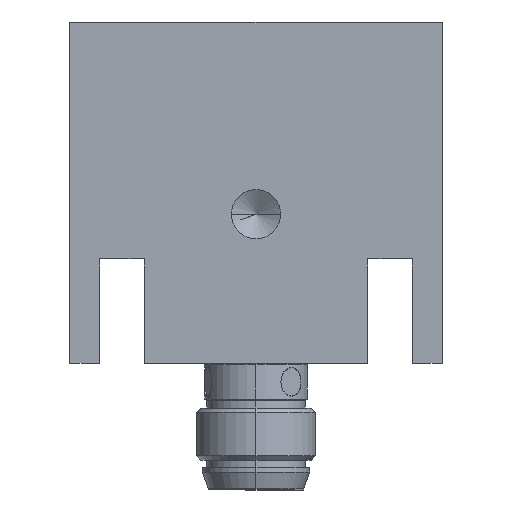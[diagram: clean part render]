
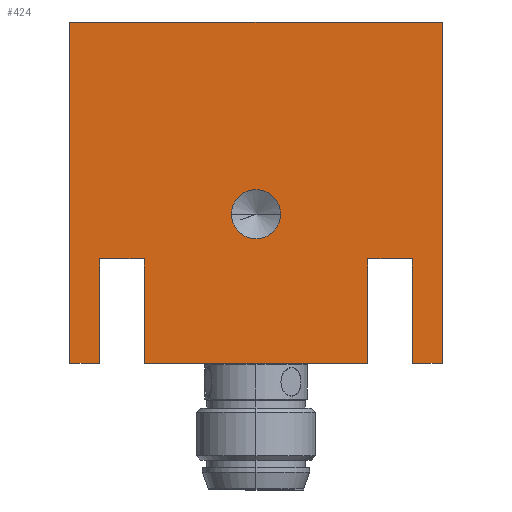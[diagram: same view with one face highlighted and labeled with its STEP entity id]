
A CAD part, left-side view. The second image highlights one B-rep face of the part: STEP entity #424.
In plain terms, the highlighted planar face has unit normal (-1, 0, 0) as drawn and (0, 0, 1) by its records, which use the part's own axes.
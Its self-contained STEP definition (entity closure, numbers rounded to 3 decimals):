
#424=ADVANCED_FACE('2:93',(#1019,#1020),#1021,.T.);
#1019=FACE_BOUND('',#1823,.T.);
#1020=FACE_OUTER_BOUND('',#1824,.T.);
#1021=PLANE('',#1825);
#1823=EDGE_LOOP('',(#2999,#3000));
#1824=EDGE_LOOP('',(#3001,#3002,#3003,#3004,#3005,#3006,#3007,#3008,#3009,#3010,#3011,#3012));
#1825=AXIS2_PLACEMENT_3D('',#3013,#3014,#3015);
#2999=ORIENTED_EDGE('',*,*,#4702,.T.);
#3000=ORIENTED_EDGE('',*,*,#4835,.T.);
#3001=ORIENTED_EDGE('',*,*,#4524,.T.);
#3002=ORIENTED_EDGE('',*,*,#4836,.F.);
#3003=ORIENTED_EDGE('',*,*,#4632,.F.);
#3004=ORIENTED_EDGE('',*,*,#4837,.F.);
#3005=ORIENTED_EDGE('',*,*,#4838,.F.);
#3006=ORIENTED_EDGE('',*,*,#4839,.F.);
#3007=ORIENTED_EDGE('',*,*,#4840,.F.);
#3008=ORIENTED_EDGE('',*,*,#4841,.F.);
#3009=ORIENTED_EDGE('',*,*,#4842,.F.);
#3010=ORIENTED_EDGE('',*,*,#4843,.F.);
#3011=ORIENTED_EDGE('',*,*,#4830,.F.);
#3012=ORIENTED_EDGE('',*,*,#4844,.T.);
#3013=CARTESIAN_POINT('',(0.,19.9,12.011));
#3014=DIRECTION('',(0.,0.,1.0));
#3015=DIRECTION('',(1.0,0.,0.));
#4524=EDGE_CURVE('2:729',#5324,#5328,#5330,.T.);
#4632=EDGE_CURVE('2:660',#5519,#5521,#5522,.F.);
#4702=EDGE_CURVE('2:666',#5633,#5637,#5639,.T.);
#4830=EDGE_CURVE('2:639',#5850,#5851,#5852,.F.);
#4835=EDGE_CURVE('',#5637,#5633,#5859,.T.);
#4836=EDGE_CURVE('2:726',#5521,#5328,#5860,.T.);
#4837=EDGE_CURVE('2:711',#5861,#5519,#5862,.T.);
#4838=EDGE_CURVE('2:648',#5863,#5861,#5864,.T.);
#4839=EDGE_CURVE('2:714',#5865,#5863,#5866,.T.);
#4840=EDGE_CURVE('2:543',#5867,#5865,#5868,.F.);
#4841=EDGE_CURVE('2:720',#5869,#5867,#5870,.T.);
#4842=EDGE_CURVE('2:576',#5871,#5869,#5872,.T.);
#4843=EDGE_CURVE('2:717',#5851,#5871,#5873,.T.);
#4844=EDGE_CURVE('2:708',#5850,#5324,#5874,.F.);
#5324=VERTEX_POINT('',#6491);
#5328=VERTEX_POINT('',#6497);
#5330=LINE('',#6500,#6501);
#5519=VERTEX_POINT('',#6879);
#5521=VERTEX_POINT('',#6882);
#5522=LINE('',#6883,#6884);
#5633=VERTEX_POINT('',#7067);
#5637=VERTEX_POINT('',#7072);
#5639=CIRCLE('',#7075,1.65);
#5850=VERTEX_POINT('',#7621);
#5851=VERTEX_POINT('',#7622);
#5852=LINE('',#7623,#7624);
#5859=CIRCLE('',#7634,1.65);
#5860=LINE('',#7635,#7636);
#5861=VERTEX_POINT('',#7637);
#5862=LINE('',#7638,#7639);
#5863=VERTEX_POINT('',#7640);
#5864=LINE('',#7641,#7642);
#5865=VERTEX_POINT('',#7643);
#5866=LINE('',#7644,#7645);
#5867=VERTEX_POINT('',#7646);
#5868=LINE('',#7647,#7648);
#5869=VERTEX_POINT('',#7649);
#5870=LINE('',#7650,#7651);
#5871=VERTEX_POINT('',#7652);
#5872=LINE('',#7653,#7654);
#5873=LINE('',#7655,#7656);
#5874=LINE('',#7657,#7658);
#6491=CARTESIAN_POINT('',(12.5,22.9,12.011));
#6497=CARTESIAN_POINT('',(-12.5,22.9,12.011));
#6500=CARTESIAN_POINT('',(12.5,22.9,12.011));
#6501=VECTOR('',#8910,1.0);
#6879=CARTESIAN_POINT('',(-10.5,0.,12.011));
#6882=CARTESIAN_POINT('',(-12.5,0.,12.011));
#6883=CARTESIAN_POINT('',(-6.,0.,12.011));
#6884=VECTOR('',#9059,1.0);
#7067=CARTESIAN_POINT('',(-1.65,10.,12.011));
#7072=CARTESIAN_POINT('',(1.65,10.,12.011));
#7075=AXIS2_PLACEMENT_3D('',#9162,#9163,#9164);
#7621=CARTESIAN_POINT('',(12.5,0.,12.011));
#7622=CARTESIAN_POINT('',(10.5,0.,12.011));
#7623=CARTESIAN_POINT('',(-6.,0.,12.011));
#7624=VECTOR('',#9346,1.0);
#7634=AXIS2_PLACEMENT_3D('',#9350,#9351,#9352);
#7635=CARTESIAN_POINT('',(-12.5,19.9,12.011));
#7636=VECTOR('',#9353,1.0);
#7637=CARTESIAN_POINT('',(-10.5,7.,12.011));
#7638=CARTESIAN_POINT('',(-10.5,6.4,12.011));
#7639=VECTOR('',#9354,1.0);
#7640=CARTESIAN_POINT('',(-7.498,7.,12.011));
#7641=CARTESIAN_POINT('',(-6.,7.,12.011));
#7642=VECTOR('',#9355,1.0);
#7643=CARTESIAN_POINT('',(-7.498,0.,12.011));
#7644=CARTESIAN_POINT('',(-7.498,6.4,12.011));
#7645=VECTOR('',#9356,1.0);
#7646=CARTESIAN_POINT('',(7.502,0.,12.011));
#7647=CARTESIAN_POINT('',(-6.,0.,12.011));
#7648=VECTOR('',#9357,1.0);
#7649=CARTESIAN_POINT('',(7.502,7.,12.011));
#7650=CARTESIAN_POINT('',(7.502,6.4,12.011));
#7651=VECTOR('',#9358,1.0);
#7652=CARTESIAN_POINT('',(10.5,7.,12.011));
#7653=CARTESIAN_POINT('',(-6.,7.,12.011));
#7654=VECTOR('',#9359,1.0);
#7655=CARTESIAN_POINT('',(10.5,6.4,12.011));
#7656=VECTOR('',#9360,1.0);
#7657=CARTESIAN_POINT('',(12.5,12.8,12.011));
#7658=VECTOR('',#9361,1.0);
#8910=DIRECTION('',(-1.0,0.,0.));
#9059=DIRECTION('',(1.0,0.,0.));
#9162=CARTESIAN_POINT('',(0.,10.,12.011));
#9163=DIRECTION('',(0.,0.,-1.0));
#9164=DIRECTION('',(-1.0,0.,0.));
#9346=DIRECTION('',(1.0,0.,0.));
#9350=CARTESIAN_POINT('',(0.,10.,12.011));
#9351=DIRECTION('',(0.,0.,-1.0));
#9352=DIRECTION('',(-1.0,0.,0.));
#9353=DIRECTION('',(0.,1.0,0.));
#9354=DIRECTION('',(0.,-1.0,0.));
#9355=DIRECTION('',(-1.0,0.,0.));
#9356=DIRECTION('',(0.,1.0,0.));
#9357=DIRECTION('',(1.0,0.,0.));
#9358=DIRECTION('',(0.,-1.0,0.));
#9359=DIRECTION('',(-1.0,0.,0.));
#9360=DIRECTION('',(0.,1.0,0.));
#9361=DIRECTION('',(0.,-1.0,0.));
